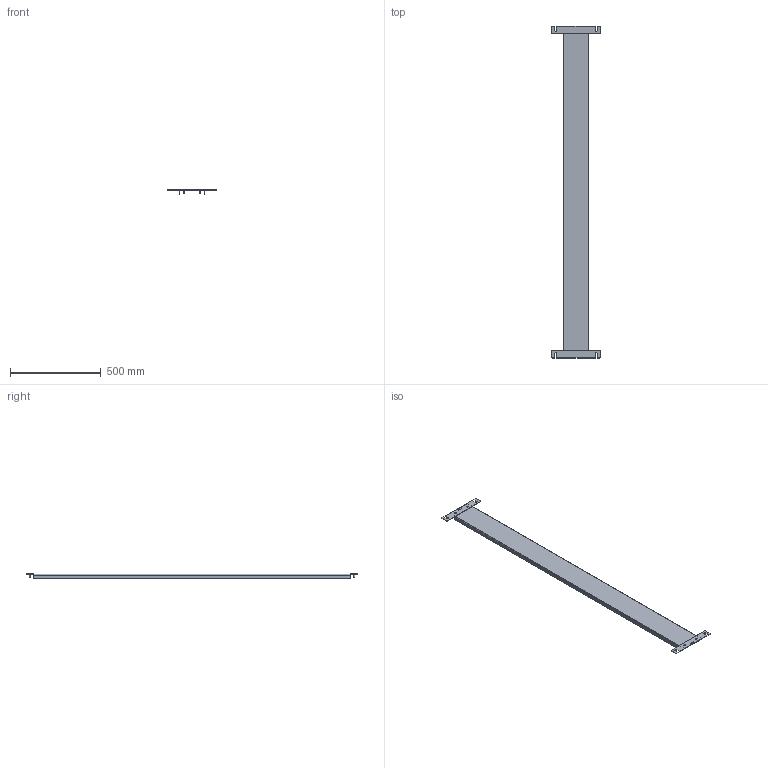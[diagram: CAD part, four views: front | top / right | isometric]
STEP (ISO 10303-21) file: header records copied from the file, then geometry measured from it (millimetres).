
FILE_DESCRIPTION (( 'STEP AP203' ), '1' );
FILE_NAME ('AU84FP.STEP', '2020-07-16T20:35:55', ( '' ), ( '' ), 'SwSTEP 2.0', 'SolidWorks 2016', '' );
FILE_SCHEMA (( 'CONFIG_CONTROL_DESIGN' ));
Length unit declared in the file: inch
Products named in the file (5): AU84FP; 89183037_89183037; 99409109_Config-Drawing; 89183031_89052003; 89183035
Assembly tree (6 placements, depth 3):
  AU84FP
    89183031_89052003
    89183035  x2
      89183037_89183037
      99409109_Config-Drawing
Bounding box: 266.7 x 1828.8 x 23.8 mm (x, y, z)
Volume: 839716.6 mm3; surface area: 694014 mm2
Topology: 7 solids, 7 shells, 234 faces, 576 edges, 376 vertices
Faces by surface type: plane 102, cylinder 60, bspline 56, cone 8, torus 8
Entity records: 5775 total; most frequent: CARTESIAN_POINT 2256, ORIENTED_EDGE 636, DIRECTION 558, EDGE_CURVE 318, VERTEX_POINT 206, AXIS2_PLACEMENT_3D 188, VECTOR 182, LINE 182
